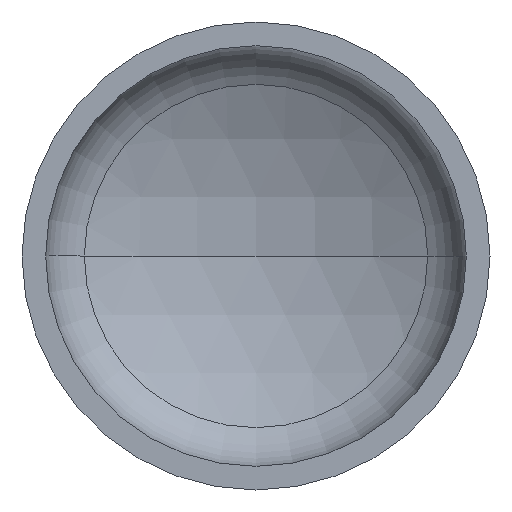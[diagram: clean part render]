
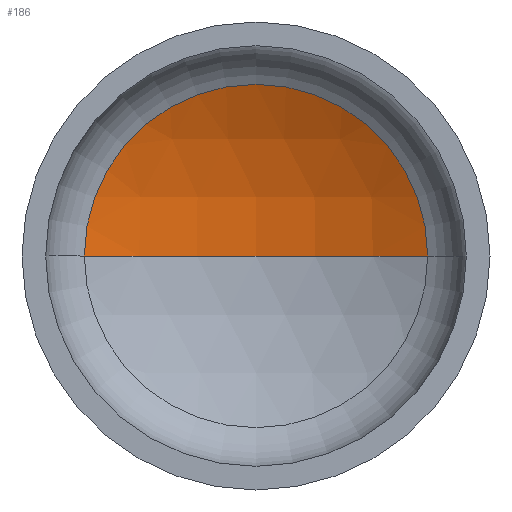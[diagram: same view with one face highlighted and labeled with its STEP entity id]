
A CAD part, front view. The second image highlights one B-rep face of the part: STEP entity #186.
In plain terms, the highlighted spherical face has radius 1520 mm.
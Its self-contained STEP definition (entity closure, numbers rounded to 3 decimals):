
#14 = ORIENTED_EDGE ( 'NONE', *, *, #369, .T. ) ;
#15 = ORIENTED_EDGE ( 'NONE', *, *, #362, .T. ) ;
#17 = VERTEX_POINT ( 'NONE', #243 ) ;
#22 = AXIS2_PLACEMENT_3D ( 'NONE', #386, #260, #406 ) ;
#25 = AXIS2_PLACEMENT_3D ( 'NONE', #97, #296, #165 ) ;
#29 = CIRCLE ( 'NONE', #22, 1520. ) ;
#44 = AXIS2_PLACEMENT_3D ( 'NONE', #206, #360, #228 ) ;
#67 = CARTESIAN_POINT ( 'NONE',  ( 0., -993.071, 0. ) ) ;
#76 = AXIS2_PLACEMENT_3D ( 'NONE', #67, #160, #315 ) ;
#79 = VERTEX_POINT ( 'NONE', #264 ) ;
#84 = VERTEX_POINT ( 'NONE', #268 ) ;
#97 = CARTESIAN_POINT ( 'NONE',  ( 0., 357.716, 0. ) ) ;
#102 = EDGE_LOOP ( 'NONE', ( #125, #14, #15 ) ) ;
#125 = ORIENTED_EDGE ( 'NONE', *, *, #347, .F. ) ;
#160 = DIRECTION ( 'NONE',  ( 0., 0., -1. ) ) ;
#165 = DIRECTION ( 'NONE',  ( 1., 0., 0. ) ) ;
#186 = ADVANCED_FACE ( 'NONE', ( #286 ), #223, .F. ) ;
#206 = CARTESIAN_POINT ( 'NONE',  ( 0., -993.071, 0. ) ) ;
#223 = SPHERICAL_SURFACE ( 'NONE', #76, 1520. ) ;
#228 = DIRECTION ( 'NONE',  ( 1., 0., 0. ) ) ;
#243 = CARTESIAN_POINT ( 'NONE',  ( 0., 526.929, 0. ) ) ;
#260 = DIRECTION ( 'NONE',  ( 0., 0., -1. ) ) ;
#262 = CIRCLE ( 'NONE', #44, 1520. ) ;
#264 = CARTESIAN_POINT ( 'NONE',  ( 696.976, 357.716, 0. ) ) ;
#268 = CARTESIAN_POINT ( 'NONE',  ( -696.976, 357.716, 0. ) ) ;
#286 = FACE_OUTER_BOUND ( 'NONE', #102, .T. ) ;
#296 = DIRECTION ( 'NONE',  ( 0., -1., 0. ) ) ;
#311 = CIRCLE ( 'NONE', #25, 696.976 ) ;
#315 = DIRECTION ( 'NONE',  ( -1., 0., 0. ) ) ;
#347 = EDGE_CURVE ( 'NONE', #17, #84, #262, .T. ) ;
#360 = DIRECTION ( 'NONE',  ( 0., 0., 1. ) ) ;
#362 = EDGE_CURVE ( 'NONE', #79, #84, #311, .T. ) ;
#369 = EDGE_CURVE ( 'NONE', #17, #79, #29, .T. ) ;
#386 = CARTESIAN_POINT ( 'NONE',  ( 0., -993.071, 0. ) ) ;
#406 = DIRECTION ( 'NONE',  ( -1., 0., 0. ) ) ;
